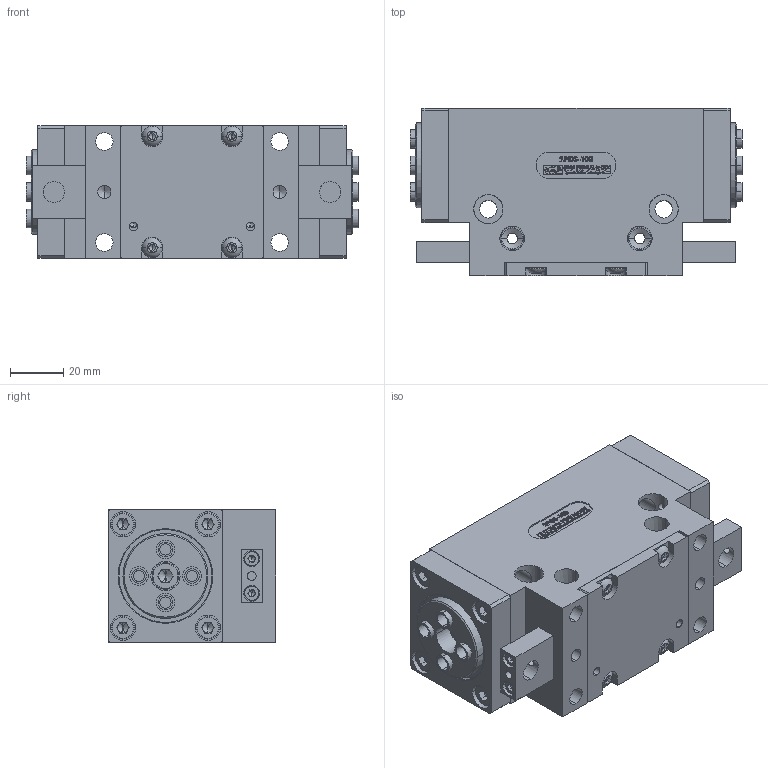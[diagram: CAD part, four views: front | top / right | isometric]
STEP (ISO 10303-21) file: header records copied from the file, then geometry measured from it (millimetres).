
FILE_DESCRIPTION (( 'STEP AP214' ), '1' );
FILE_NAME ('2PGS 100.STEP', '2012-02-28T07:20:43', ( 'xw4600' ), ( '' ), 'SwSTEP 2.0', 'SolidWorks 2010', '' );
FILE_SCHEMA (( 'AUTOMOTIVE_DESIGN' ));
Length unit declared in the file: millimetre
Products named in the file (23): 2DP-100-01_Default; 2DP-100-02_Default; 2DP-100-03_Default; 2DP-100-04_Default; 2DP-100-05_Default; 2DP-100-06_Default; 2DP-100-07_Default; 2DP-100-08_Default; 2DP-100-11_Default; 2DP-100-13_Default; 2DP-100-P5_Default; mark(2DP-100)_Default; Q-ring(Q4113)_Default; Q-ring(Q4126)_Default; O-rings(S8)_O-ring 8x1.8-B-ISO 3601-1; O-rings(S40)_O-ring 40x2.65-B-ISO 3601-1; countersunk head screw_ISO 10642 - M3 x 8 --- 8N; countersunk head screw_ISO 10642 - M6 x 12 --- 12N; button head screw_ISO 7380 - M4 x 10 --- 10N; Socket Head Cap Screw_ISO 4762 M6 x 12 --- 12N; Socket Head Cap Screw_ISO 4762 M5 x 12 --- 12N; Socket Head Cap Screw_ISO 4762 M3 x 16 --- 16N; 2PGS 100
Assembly tree (58 placements, depth 2):
  2PGS 100
    2DP-100-08_Default  x2
    Q-ring(Q4126)_Default
    button head screw_ISO 7380 - M4 x 10 --- 10N  x4
    2DP-100-11_Default  x8
    countersunk head screw_ISO 10642 - M3 x 8 --- 8N  x10
    Socket Head Cap Screw_ISO 4762 M5 x 12 --- 12N  x8
    2DP-100-07_Default
    mark(2DP-100)_Default  x2
    Q-ring(Q4113)_Default
    2DP-100-06_Default
    2DP-100-05_Default
    2DP-100-P5_Default  x2
    Socket Head Cap Screw_ISO 4762 M3 x 16 --- 16N  x4
    2DP-100-04_Default  x2
    countersunk head screw_ISO 10642 - M6 x 12 --- 12N
    2DP-100-01_Default
    2DP-100-03_Default  x2
    2DP-100-13_Default  x2
    O-rings(S40)_O-ring 40x2.65-B-ISO 3601-1
    Socket Head Cap Screw_ISO 4762 M6 x 12 --- 12N  x2
    2DP-100-02_Default
    O-rings(S8)_O-ring 8x1.8-B-ISO 3601-1
Bounding box: 125 x 63 x 50 mm (x, y, z)
Volume: 277094.6 mm3; surface area: 130370.4 mm2
Topology: 58 solids, 60 shells, 3450 faces, 8567 edges, 5433 vertices
Faces by surface type: plane 1863, bspline 582, cylinder 523, cone 264, torus 210, sphere 8
Entity records: 80150 total; most frequent: CARTESIAN_POINT 27910, ORIENTED_EDGE 8808, DIRECTION 7828, EDGE_CURVE 4404, VERTEX_POINT 2840, LINE 2732, VECTOR 2732, AXIS2_PLACEMENT_3D 2548
